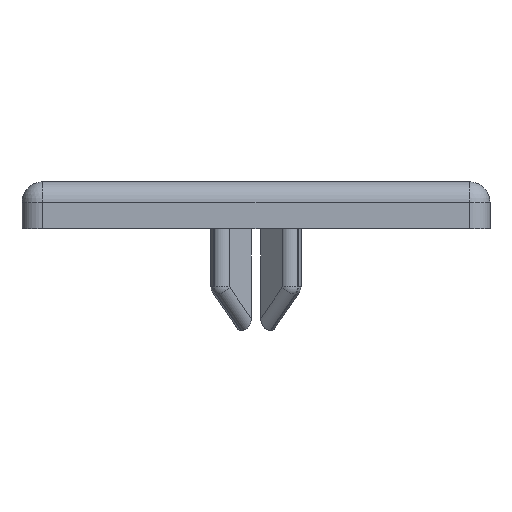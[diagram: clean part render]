
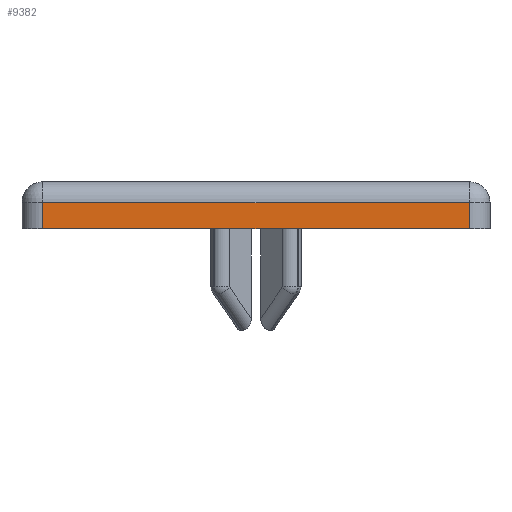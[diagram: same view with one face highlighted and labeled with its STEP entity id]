
A CAD part, left-side view. The second image highlights one B-rep face of the part: STEP entity #9382.
In plain terms, the highlighted planar face has unit normal (-1, 0, 0).
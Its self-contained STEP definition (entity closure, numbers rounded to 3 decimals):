
#496=PLANE('',#9901);
#1366=FACE_OUTER_BOUND('',#1959,.T.);
#1959=EDGE_LOOP('',(#8560,#8561,#8562,#8563));
#2889=LINE('',#16559,#3799);
#2890=LINE('',#16561,#3800);
#2891=LINE('',#16566,#3801);
#2894=LINE('',#16571,#3804);
#3799=VECTOR('',#11682,10.);
#3800=VECTOR('',#11685,10.);
#3801=VECTOR('',#11690,10.);
#3804=VECTOR('',#11697,10.);
#4807=VERTEX_POINT('',#16514);
#4808=VERTEX_POINT('',#16519);
#4818=VERTEX_POINT('',#16555);
#4821=VERTEX_POINT('',#16564);
#6079=EDGE_CURVE('',#4808,#4818,#2889,.T.);
#6080=EDGE_CURVE('',#4807,#4808,#2890,.T.);
#6082=EDGE_CURVE('',#4821,#4807,#2891,.T.);
#6085=EDGE_CURVE('',#4818,#4821,#2894,.T.);
#8560=ORIENTED_EDGE('',*,*,#6079,.F.);
#8561=ORIENTED_EDGE('',*,*,#6080,.F.);
#8562=ORIENTED_EDGE('',*,*,#6082,.F.);
#8563=ORIENTED_EDGE('',*,*,#6085,.F.);
#9382=ADVANCED_FACE('',(#1366),#496,.T.);
#9901=AXIS2_PLACEMENT_3D('',#16570,#11695,#11696);
#11682=DIRECTION('',(0.,0.,-1.));
#11685=DIRECTION('',(0.,-1.,0.));
#11690=DIRECTION('',(0.,0.,1.));
#11695=DIRECTION('center_axis',(-1.,0.,0.));
#11696=DIRECTION('ref_axis',(0.,0.,1.));
#11697=DIRECTION('',(0.,1.,0.));
#16514=CARTESIAN_POINT('',(0.,43.,2.5));
#16519=CARTESIAN_POINT('',(0.,2.,2.5));
#16555=CARTESIAN_POINT('',(0.,2.,0.));
#16559=CARTESIAN_POINT('',(0.,2.,0.));
#16561=CARTESIAN_POINT('',(0.,11.25,2.5));
#16564=CARTESIAN_POINT('',(0.,43.,0.));
#16566=CARTESIAN_POINT('',(0.,43.,0.));
#16570=CARTESIAN_POINT('Origin',(0.,0.,0.));
#16571=CARTESIAN_POINT('',(0.,0.,0.));
